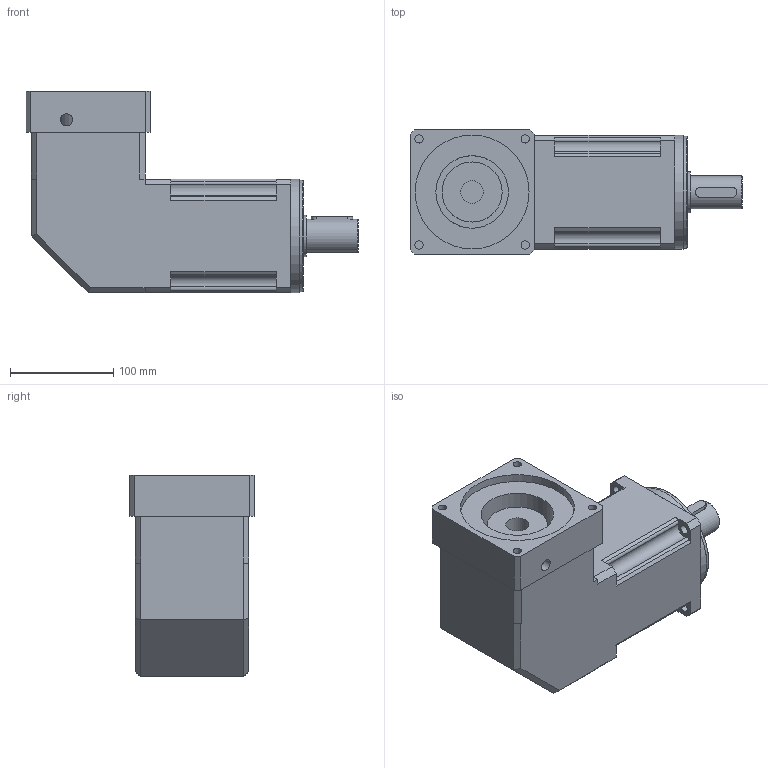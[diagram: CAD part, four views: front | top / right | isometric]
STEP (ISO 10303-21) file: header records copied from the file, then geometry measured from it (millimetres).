
FILE_DESCRIPTION(/* description */ (''),/* implementation_level */ '2;1');
FILE_NAME(/* name */ 'KVX115-2-149.stp',/* time_stamp */ '2019-08-18T19:50:12+08:00',/* author */ (''),/* organization */ (''),/* preprocessor_version */ 'ST-DEVELOPER v16',/* originating_system */ 'SIEMENS PLM Software NX 10.0',/* authorisation */ '');
FILE_SCHEMA (('CONFIG_CONTROL_DESIGN'));
Length unit declared in the file: millimetre
Products named in the file (1): KVX115-2-149
Bounding box: 320.8 x 120 x 195 mm (x, y, z)
Volume: 3853230 mm3; surface area: 197784.6 mm2
Topology: 1 solids, 1 shells, 113 faces, 279 edges, 181 vertices
Faces by surface type: cylinder 56, plane 54, cone 2, torus 1
Full cylindrical faces by diameter (mm): 8 x4, 8.5 x1, 9 x4, 11.838 x1, 22 x1, 32 x1, 40 x1, 58 x1, 70.1 x1, 108 x1, 110 x2
Entity records: 3367 total; most frequent: DIRECTION 593, CARTESIAN_POINT 585, ORIENTED_EDGE 508, EDGE_CURVE 254, AXIS2_PLACEMENT_3D 228, VERTEX_POINT 178, EDGE_LOOP 157, LINE 137
